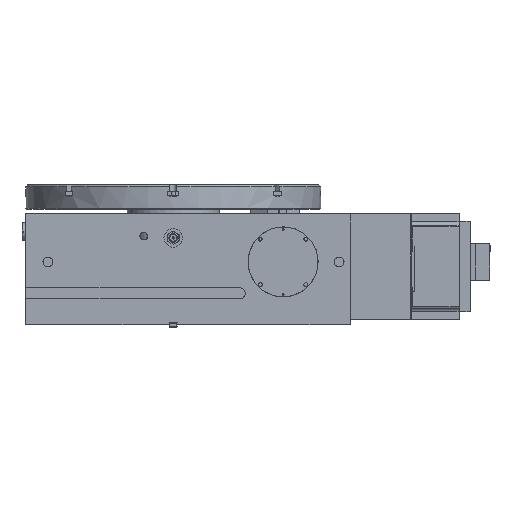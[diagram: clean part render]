
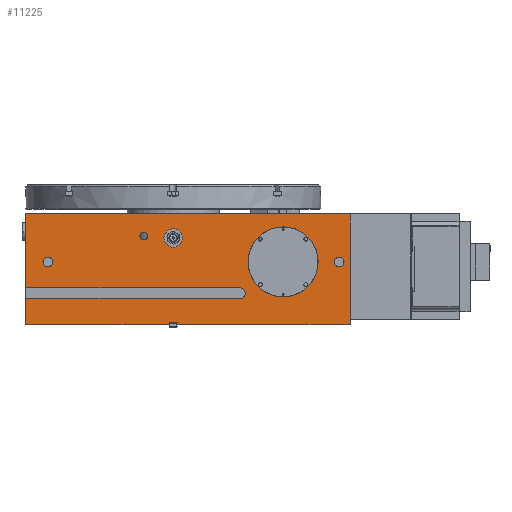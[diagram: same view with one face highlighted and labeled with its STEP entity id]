
A CAD part, front view. The second image highlights one B-rep face of the part: STEP entity #11225.
In plain terms, the highlighted planar face has unit normal (0, -1, 0).
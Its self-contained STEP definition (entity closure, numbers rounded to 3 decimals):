
#194 = DIRECTION ( 'NONE',  ( 1., 0., 0. ) ) ;
#238 = CARTESIAN_POINT ( 'NONE',  ( -400., -480., 300. ) ) ;
#283 = DIRECTION ( 'NONE',  ( 0., -1., 0. ) ) ;
#382 = CARTESIAN_POINT ( 'NONE',  ( -400., -480., 300. ) ) ;
#620 = DIRECTION ( 'NONE',  ( 1., 0., 0. ) ) ;
#909 = CARTESIAN_POINT ( 'NONE',  ( 11., -480., 5. ) ) ;
#960 = VERTEX_POINT ( 'NONE', #382 ) ;
#1067 = CARTESIAN_POINT ( 'NONE',  ( 180., -480., 85. ) ) ;
#1075 = ORIENTED_EDGE ( 'NONE', *, *, #15969, .F. ) ;
#1078 = CARTESIAN_POINT ( 'NONE',  ( -400., -480., 0. ) ) ;
#1238 = VERTEX_POINT ( 'NONE', #21914 ) ;
#1326 = CIRCLE ( 'NONE', #17356, 13.25 ) ;
#1544 = EDGE_CURVE ( 'NONE', #20343, #5739, #9654, .T. ) ;
#1594 = VECTOR ( 'NONE', #4433, 1000. ) ;
#1842 = ORIENTED_EDGE ( 'NONE', *, *, #10393, .F. ) ;
#1844 = FACE_BOUND ( 'NONE', #4475, .T. ) ;
#1900 = EDGE_CURVE ( 'NONE', #16687, #14328, #9632, .T. ) ;
#1960 = FACE_BOUND ( 'NONE', #18448, .T. ) ;
#1997 = AXIS2_PLACEMENT_3D ( 'NONE', #18481, #20955, #5339 ) ;
#2747 = CARTESIAN_POINT ( 'NONE',  ( -400., -480., 70. ) ) ;
#2780 = VECTOR ( 'NONE', #194, 1000. ) ;
#3064 = ORIENTED_EDGE ( 'NONE', *, *, #21125, .T. ) ;
#3263 = EDGE_LOOP ( 'NONE', ( #10944 ) ) ;
#3342 = CARTESIAN_POINT ( 'NONE',  ( -11., -480., 5. ) ) ;
#3411 = CARTESIAN_POINT ( 'NONE',  ( 298., -480., 170. ) ) ;
#3915 = ORIENTED_EDGE ( 'NONE', *, *, #17032, .F. ) ;
#4139 = DIRECTION ( 'NONE',  ( 0., 0., -1. ) ) ;
#4392 = DIRECTION ( 'NONE',  ( 0., 0., -1. ) ) ;
#4433 = DIRECTION ( 'NONE',  ( 1., 0., 0. ) ) ;
#4462 = ORIENTED_EDGE ( 'NONE', *, *, #5208, .T. ) ;
#4475 = EDGE_LOOP ( 'NONE', ( #4462 ) ) ;
#4574 = CARTESIAN_POINT ( 'NONE',  ( 180., -480., 70. ) ) ;
#4593 = CIRCLE ( 'NONE', #8618, 15. ) ;
#5028 = DIRECTION ( 'NONE',  ( -1., 0., 0. ) ) ;
#5043 = VERTEX_POINT ( 'NONE', #17234 ) ;
#5143 = DIRECTION ( 'NONE',  ( -1., 0., 0. ) ) ;
#5208 = EDGE_CURVE ( 'NONE', #13032, #13032, #19870, .T. ) ;
#5339 = DIRECTION ( 'NONE',  ( 1., 0., 0. ) ) ;
#5500 = EDGE_CURVE ( 'NONE', #5043, #5043, #1326, .T. ) ;
#5728 = LINE ( 'NONE', #17903, #13799 ) ;
#5739 = VERTEX_POINT ( 'NONE', #18059 ) ;
#5854 = EDGE_CURVE ( 'NONE', #960, #20480, #9747, .T. ) ;
#5959 = CARTESIAN_POINT ( 'NONE',  ( -400., -480., 300. ) ) ;
#5990 = ORIENTED_EDGE ( 'NONE', *, *, #9780, .F. ) ;
#6358 = LINE ( 'NONE', #21973, #19540 ) ;
#6430 = DIRECTION ( 'NONE',  ( 0., 0., -1. ) ) ;
#6863 = LINE ( 'NONE', #20769, #7662 ) ;
#6946 = CARTESIAN_POINT ( 'NONE',  ( 450., -480., 156.75 ) ) ;
#6976 = DIRECTION ( 'NONE',  ( 0., 1., 0. ) ) ;
#7083 = ORIENTED_EDGE ( 'NONE', *, *, #1900, .T. ) ;
#7089 = CIRCLE ( 'NONE', #1997, 25. ) ;
#7116 = VERTEX_POINT ( 'NONE', #19620 ) ;
#7205 = FACE_BOUND ( 'NONE', #16016, .T. ) ;
#7278 = LINE ( 'NONE', #12612, #2780 ) ;
#7539 = ORIENTED_EDGE ( 'NONE', *, *, #10282, .T. ) ;
#7548 = DIRECTION ( 'NONE',  ( -1., 0., 0. ) ) ;
#7662 = VECTOR ( 'NONE', #5143, 1000. ) ;
#7861 = EDGE_CURVE ( 'NONE', #8560, #11126, #7278, .T. ) ;
#8220 = CARTESIAN_POINT ( 'NONE',  ( 480., -480., 300. ) ) ;
#8223 = ORIENTED_EDGE ( 'NONE', *, *, #21789, .F. ) ;
#8560 = VERTEX_POINT ( 'NONE', #2747 ) ;
#8597 = CARTESIAN_POINT ( 'NONE',  ( 11., -480., 0. ) ) ;
#8618 = AXIS2_PLACEMENT_3D ( 'NONE', #1067, #9737, #620 ) ;
#8642 = VECTOR ( 'NONE', #4392, 1000. ) ;
#8791 = FACE_OUTER_BOUND ( 'NONE', #19245, .T. ) ;
#9136 = DIRECTION ( 'NONE',  ( 1., 0., 0. ) ) ;
#9438 = CIRCLE ( 'NONE', #22541, 13.25 ) ;
#9519 = ORIENTED_EDGE ( 'NONE', *, *, #5854, .T. ) ;
#9632 = LINE ( 'NONE', #1078, #22394 ) ;
#9654 = LINE ( 'NONE', #16492, #12768 ) ;
#9737 = DIRECTION ( 'NONE',  ( 0., -1., 0. ) ) ;
#9747 = LINE ( 'NONE', #13046, #8642 ) ;
#9780 = EDGE_CURVE ( 'NONE', #11126, #21030, #4593, .T. ) ;
#9802 = DIRECTION ( 'NONE',  ( 0., 0., -1. ) ) ;
#10214 = DIRECTION ( 'NONE',  ( 0., -1., 0. ) ) ;
#10282 = EDGE_CURVE ( 'NONE', #8560, #16687, #21572, .T. ) ;
#10393 = EDGE_CURVE ( 'NONE', #19484, #19484, #7089, .T. ) ;
#10646 = AXIS2_PLACEMENT_3D ( 'NONE', #12100, #22156, #6430 ) ;
#10716 = VECTOR ( 'NONE', #16767, 1000. ) ;
#10855 = EDGE_LOOP ( 'NONE', ( #1842 ) ) ;
#10858 = CARTESIAN_POINT ( 'NONE',  ( -400., -480., 0. ) ) ;
#10944 = ORIENTED_EDGE ( 'NONE', *, *, #5500, .F. ) ;
#10974 = AXIS2_PLACEMENT_3D ( 'NONE', #238, #6976, #5028 ) ;
#11126 = VERTEX_POINT ( 'NONE', #4574 ) ;
#11225 = ADVANCED_FACE ( 'NONE', ( #19274, #7205, #1960, #19157, #1844, #8791 ), #12080, .F. ) ;
#11695 = DIRECTION ( 'NONE',  ( 0., 0., -1. ) ) ;
#12080 = PLANE ( 'NONE',  #10974 ) ;
#12100 = CARTESIAN_POINT ( 'NONE',  ( -80., -480., 240. ) ) ;
#12315 = CARTESIAN_POINT ( 'NONE',  ( 180., -480., 100. ) ) ;
#12612 = CARTESIAN_POINT ( 'NONE',  ( -400., -480., 70. ) ) ;
#12669 = VECTOR ( 'NONE', #9802, 1000. ) ;
#12768 = VECTOR ( 'NONE', #9136, 1000. ) ;
#12994 = LINE ( 'NONE', #909, #12669 ) ;
#13032 = VERTEX_POINT ( 'NONE', #13253 ) ;
#13046 = CARTESIAN_POINT ( 'NONE',  ( -400., -480., 300. ) ) ;
#13253 = CARTESIAN_POINT ( 'NONE',  ( 298., -480., 265. ) ) ;
#13681 = AXIS2_PLACEMENT_3D ( 'NONE', #3411, #14219, #14113 ) ;
#13799 = VECTOR ( 'NONE', #7548, 1000. ) ;
#14113 = DIRECTION ( 'NONE',  ( 0., 0., 1. ) ) ;
#14219 = DIRECTION ( 'NONE',  ( 0., 1., 0. ) ) ;
#14328 = VERTEX_POINT ( 'NONE', #17177 ) ;
#14433 = VERTEX_POINT ( 'NONE', #19677 ) ;
#14727 = ORIENTED_EDGE ( 'NONE', *, *, #7861, .F. ) ;
#15179 = VERTEX_POINT ( 'NONE', #3342 ) ;
#15210 = EDGE_CURVE ( 'NONE', #14433, #14433, #19393, .T. ) ;
#15671 = EDGE_CURVE ( 'NONE', #7116, #5739, #18585, .T. ) ;
#15969 = EDGE_CURVE ( 'NONE', #960, #7116, #19935, .T. ) ;
#16016 = EDGE_LOOP ( 'NONE', ( #17357 ) ) ;
#16492 = CARTESIAN_POINT ( 'NONE',  ( -400., -480., 0. ) ) ;
#16687 = VERTEX_POINT ( 'NONE', #10858 ) ;
#16767 = DIRECTION ( 'NONE',  ( 0., 0., -1. ) ) ;
#17032 = EDGE_CURVE ( 'NONE', #1238, #15179, #6863, .T. ) ;
#17165 = DIRECTION ( 'NONE',  ( 0., 0., -1. ) ) ;
#17177 = CARTESIAN_POINT ( 'NONE',  ( -11., -480., 0. ) ) ;
#17182 = ORIENTED_EDGE ( 'NONE', *, *, #1544, .T. ) ;
#17234 = CARTESIAN_POINT ( 'NONE',  ( -340., -480., 156.75 ) ) ;
#17295 = VERTEX_POINT ( 'NONE', #6946 ) ;
#17356 = AXIS2_PLACEMENT_3D ( 'NONE', #17511, #10214, #17165 ) ;
#17357 = ORIENTED_EDGE ( 'NONE', *, *, #15210, .F. ) ;
#17511 = CARTESIAN_POINT ( 'NONE',  ( -340., -480., 170. ) ) ;
#17659 = CARTESIAN_POINT ( 'NONE',  ( 25., -480., 235. ) ) ;
#17903 = CARTESIAN_POINT ( 'NONE',  ( -400., -480., 100. ) ) ;
#18059 = CARTESIAN_POINT ( 'NONE',  ( 480., -480., 0. ) ) ;
#18176 = DIRECTION ( 'NONE',  ( 1., 0., 0. ) ) ;
#18220 = CARTESIAN_POINT ( 'NONE',  ( -400., -480., 300. ) ) ;
#18448 = EDGE_LOOP ( 'NONE', ( #8223 ) ) ;
#18481 = CARTESIAN_POINT ( 'NONE',  ( 0., -480., 235. ) ) ;
#18585 = LINE ( 'NONE', #8220, #20137 ) ;
#18673 = ORIENTED_EDGE ( 'NONE', *, *, #19810, .F. ) ;
#19157 = FACE_BOUND ( 'NONE', #3263, .T. ) ;
#19245 = EDGE_LOOP ( 'NONE', ( #3915, #3064, #17182, #21274, #1075, #9519, #22444, #5990, #14727, #7539, #7083, #18673 ) ) ;
#19274 = FACE_BOUND ( 'NONE', #10855, .T. ) ;
#19393 = CIRCLE ( 'NONE', #10646, 10.478 ) ;
#19484 = VERTEX_POINT ( 'NONE', #17659 ) ;
#19540 = VECTOR ( 'NONE', #11695, 1000. ) ;
#19620 = CARTESIAN_POINT ( 'NONE',  ( 480., -480., 300. ) ) ;
#19677 = CARTESIAN_POINT ( 'NONE',  ( -80., -480., 229.523 ) ) ;
#19810 = EDGE_CURVE ( 'NONE', #15179, #14328, #6358, .T. ) ;
#19870 = CIRCLE ( 'NONE', #13681, 95. ) ;
#19935 = LINE ( 'NONE', #18220, #1594 ) ;
#20137 = VECTOR ( 'NONE', #22237, 1000. ) ;
#20343 = VERTEX_POINT ( 'NONE', #8597 ) ;
#20480 = VERTEX_POINT ( 'NONE', #21033 ) ;
#20769 = CARTESIAN_POINT ( 'NONE',  ( -11., -480., 5. ) ) ;
#20955 = DIRECTION ( 'NONE',  ( 0., -1., 0. ) ) ;
#21030 = VERTEX_POINT ( 'NONE', #12315 ) ;
#21033 = CARTESIAN_POINT ( 'NONE',  ( -400., -480., 100. ) ) ;
#21125 = EDGE_CURVE ( 'NONE', #1238, #20343, #12994, .T. ) ;
#21259 = CARTESIAN_POINT ( 'NONE',  ( 450., -480., 170. ) ) ;
#21274 = ORIENTED_EDGE ( 'NONE', *, *, #15671, .F. ) ;
#21572 = LINE ( 'NONE', #5959, #10716 ) ;
#21789 = EDGE_CURVE ( 'NONE', #17295, #17295, #9438, .T. ) ;
#21914 = CARTESIAN_POINT ( 'NONE',  ( 11., -480., 5. ) ) ;
#21973 = CARTESIAN_POINT ( 'NONE',  ( -11., -480., 5. ) ) ;
#22156 = DIRECTION ( 'NONE',  ( 0., -1., 0. ) ) ;
#22237 = DIRECTION ( 'NONE',  ( 0., 0., -1. ) ) ;
#22312 = EDGE_CURVE ( 'NONE', #21030, #20480, #5728, .T. ) ;
#22394 = VECTOR ( 'NONE', #18176, 1000. ) ;
#22444 = ORIENTED_EDGE ( 'NONE', *, *, #22312, .F. ) ;
#22541 = AXIS2_PLACEMENT_3D ( 'NONE', #21259, #283, #4139 ) ;
